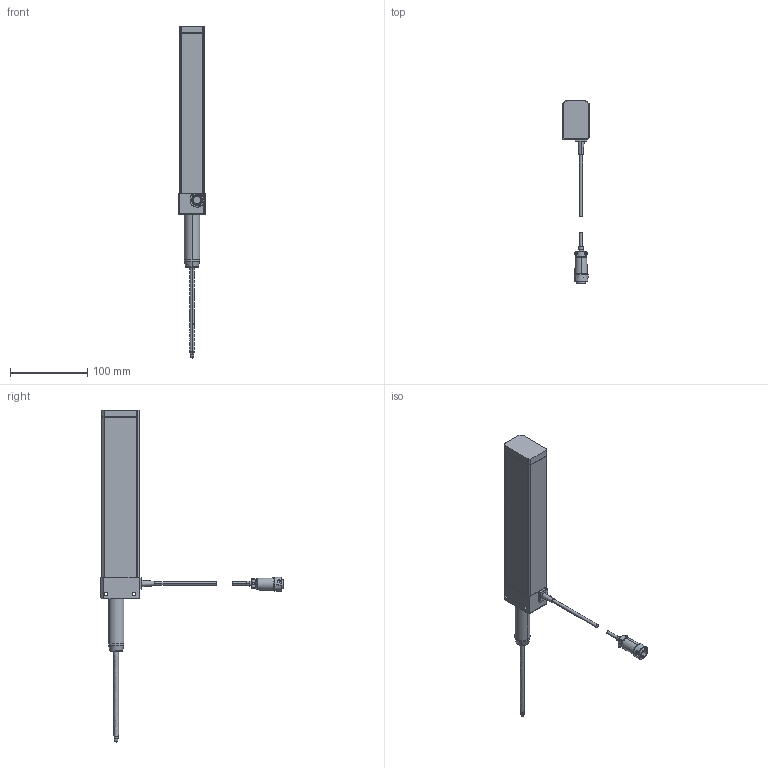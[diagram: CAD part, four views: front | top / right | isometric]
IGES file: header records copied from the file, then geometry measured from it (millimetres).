
Start section: Elysium IGES Interface
Global section: file name: 71HU:\cad_data\30_3D_CAD\LG\01_奜娤3D僨乕僞_20170601峏怴\IGES\LG-01100.igs; native system: Creo Elements/Direct Modeling 18.1B  29-Sep-2012; preprocessor: Creo Element/Direct IGES_3D V2.2; author: Unknown; organization: Unknown; date: 20170921.114220; units: millimetre
Bounding box: 34 x 236 x 429.5 mm (x, y, z)
Volume: 423751.5 mm3; surface area: 54820.2 mm2
Topology: 2 solids, 2 shells, 262 faces, 689 edges, 445 vertices
Faces by surface type: bspline 262
